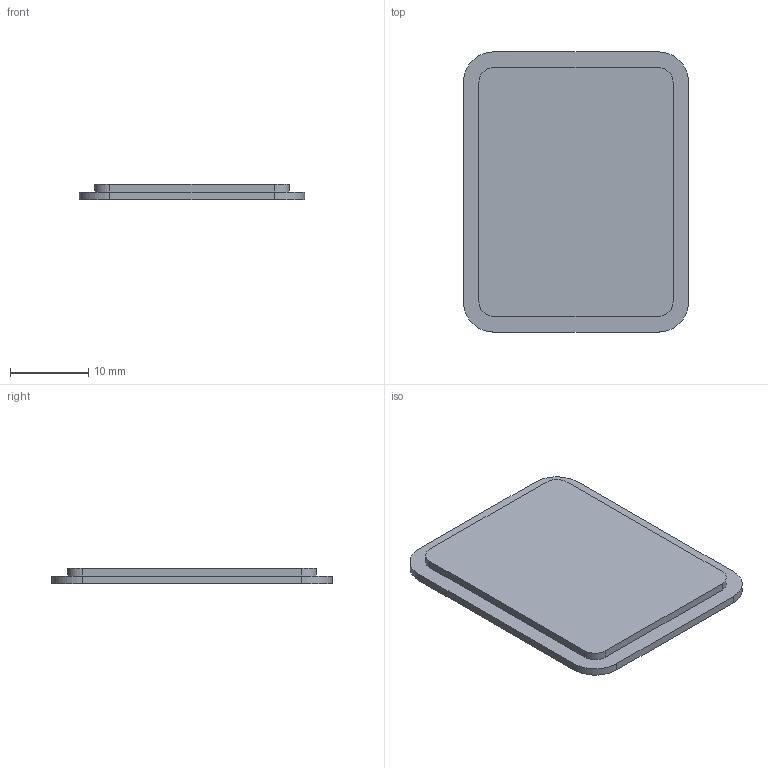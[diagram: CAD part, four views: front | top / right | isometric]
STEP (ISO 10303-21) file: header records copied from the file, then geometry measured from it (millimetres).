
FILE_DESCRIPTION (( 'STEP AP214' ), '1' );
FILE_NAME ('Glass_for_CNC.STEP', '2021-07-24T07:08:57', ( 'Valera' ), ( '' ), 'SwSTEP 2.0', 'SolidWorks 2020', '' );
FILE_SCHEMA (( 'AUTOMOTIVE_DESIGN' ));
Length unit declared in the file: millimetre
Products named in the file (1): Glass_for_CNC
Bounding box: 28.8 x 35.8 x 2 mm (x, y, z)
Volume: 1018 mm3; surface area: 2378.3 mm2
Topology: 2 solids, 2 shells, 28 faces, 72 edges, 48 vertices
Faces by surface type: plane 16, cylinder 12
Entity records: 907 total; most frequent: DIRECTION 154, CARTESIAN_POINT 149, ORIENTED_EDGE 144, EDGE_CURVE 72, AXIS2_PLACEMENT_3D 53, VERTEX_POINT 48, LINE 48, VECTOR 48
